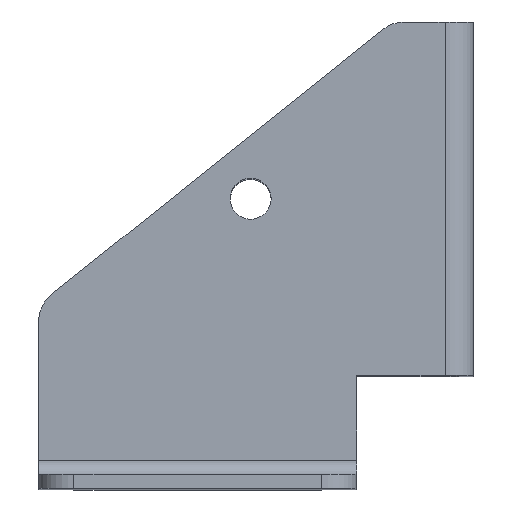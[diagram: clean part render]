
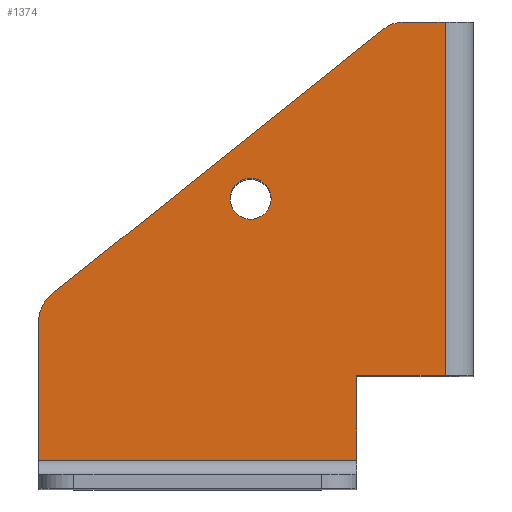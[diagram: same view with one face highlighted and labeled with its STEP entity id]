
A CAD part, top view. The second image highlights one B-rep face of the part: STEP entity #1374.
In plain terms, the highlighted planar face has unit normal (0, 0, 1).
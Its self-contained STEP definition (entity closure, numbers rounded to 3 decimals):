
#7 = VERTEX_POINT ( 'NONE', #2410 ) ;
#50 = VERTEX_POINT ( 'NONE', #2434 ) ;
#65 = ORIENTED_EDGE ( 'NONE', *, *, #2471, .T. ) ;
#83 = EDGE_CURVE ( 'NONE', #50, #589, #851, .T. ) ;
#137 = VERTEX_POINT ( 'NONE', #744 ) ;
#141 = DIRECTION ( 'NONE',  ( 0., -1., 0. ) ) ;
#142 = ORIENTED_EDGE ( 'NONE', *, *, #642, .T. ) ;
#148 = DIRECTION ( 'NONE',  ( 1., 0., 0. ) ) ;
#225 = CARTESIAN_POINT ( 'NONE',  ( -28.6, 25., 51. ) ) ;
#239 = VECTOR ( 'NONE', #1836, 1000. ) ;
#240 = LINE ( 'NONE', #1531, #402 ) ;
#250 = DIRECTION ( 'NONE',  ( -1., 0., 0. ) ) ;
#253 = DIRECTION ( 'NONE',  ( 0., 0., 1. ) ) ;
#279 = AXIS2_PLACEMENT_3D ( 'NONE', #2238, #344, #547 ) ;
#292 = CARTESIAN_POINT ( 'NONE',  ( -61.5, -12., 51. ) ) ;
#342 = CARTESIAN_POINT ( 'NONE',  ( -4., 50., 51. ) ) ;
#344 = DIRECTION ( 'NONE',  ( 0., 0., -1. ) ) ;
#394 = VERTEX_POINT ( 'NONE', #460 ) ;
#402 = VECTOR ( 'NONE', #752, 1000. ) ;
#423 = EDGE_LOOP ( 'NONE', ( #1041, #142, #1759, #2079, #823, #912, #1460, #1135, #888 ) ) ;
#460 = CARTESIAN_POINT ( 'NONE',  ( -16.5, -12., 51. ) ) ;
#500 = CARTESIAN_POINT ( 'NONE',  ( 0., 0., 51. ) ) ;
#519 = CARTESIAN_POINT ( 'NONE',  ( -31.5, 25., 51. ) ) ;
#547 = DIRECTION ( 'NONE',  ( 1., 0., 0. ) ) ;
#589 = VERTEX_POINT ( 'NONE', #1823 ) ;
#592 = CARTESIAN_POINT ( 'NONE',  ( -16.5, -12., 51. ) ) ;
#593 = EDGE_CURVE ( 'NONE', #1405, #2051, #2034, .T. ) ;
#601 = CARTESIAN_POINT ( 'NONE',  ( 0., 50., 51. ) ) ;
#609 = DIRECTION ( 'NONE',  ( 0., -1., 0. ) ) ;
#627 = DIRECTION ( 'NONE',  ( 1., 0., 0. ) ) ;
#642 = EDGE_CURVE ( 'NONE', #2086, #137, #1781, .T. ) ;
#658 = EDGE_CURVE ( 'Kante1', #7, #1005, #1895, .T. ) ;
#661 = EDGE_LOOP ( 'NONE', ( #65, #2361 ) ) ;
#694 = CARTESIAN_POINT ( 'NONE',  ( -4.488, 55.61, 51. ) ) ;
#733 = EDGE_CURVE ( 'Kante5', #394, #1162, #1537, .T. ) ;
#734 = DIRECTION ( 'NONE',  ( 0., 0., 1. ) ) ;
#744 = CARTESIAN_POINT ( 'NONE',  ( -12.87, 48.904, 51. ) ) ;
#752 = DIRECTION ( 'NONE',  ( -1., 0., 0. ) ) ;
#823 = ORIENTED_EDGE ( 'NONE', *, *, #1480, .T. ) ;
#851 = CIRCLE ( 'NONE', #1544, 5. ) ;
#888 = ORIENTED_EDGE ( 'NONE', *, *, #658, .F. ) ;
#912 = ORIENTED_EDGE ( 'NONE', *, *, #1218, .F. ) ;
#944 = EDGE_CURVE ( 'NONE', #7, #2086, #1595, .T. ) ;
#993 = PLANE ( 'NONE',  #2018 ) ;
#1005 = VERTEX_POINT ( 'NONE', #1442 ) ;
#1041 = ORIENTED_EDGE ( 'NONE', *, *, #944, .T. ) ;
#1050 = VECTOR ( 'NONE', #1054, 1000. ) ;
#1054 = DIRECTION ( 'NONE',  ( 0.781, 0.625, 0. ) ) ;
#1056 = VECTOR ( 'NONE', #250, 1000. ) ;
#1069 = DIRECTION ( 'NONE',  ( 0., 0., -1. ) ) ;
#1135 = ORIENTED_EDGE ( 'NONE', *, *, #2196, .F. ) ;
#1162 = VERTEX_POINT ( 'NONE', #1676 ) ;
#1206 = FACE_BOUND ( 'NONE', #661, .T. ) ;
#1214 = CARTESIAN_POINT ( 'NONE',  ( -61.5, 50., 51. ) ) ;
#1218 = EDGE_CURVE ( 'NONE', #394, #2334, #240, .T. ) ;
#1297 = LINE ( 'NONE', #694, #1050 ) ;
#1299 = CARTESIAN_POINT ( 'NONE',  ( -9.746, 45., 51. ) ) ;
#1332 = LINE ( 'NONE', #1214, #1706 ) ;
#1374 = ADVANCED_FACE ( 'NONE', ( #1206, #1535 ), #993, .T. ) ;
#1405 = VERTEX_POINT ( 'NONE', #225 ) ;
#1442 = CARTESIAN_POINT ( 'NONE',  ( -4., 0., 51. ) ) ;
#1460 = ORIENTED_EDGE ( 'NONE', *, *, #733, .T. ) ;
#1480 = EDGE_CURVE ( 'Kante16', #589, #2334, #1332, .T. ) ;
#1498 = AXIS2_PLACEMENT_3D ( 'NONE', #519, #1069, #2023 ) ;
#1531 = CARTESIAN_POINT ( 'NONE',  ( -16.5, -12., 51. ) ) ;
#1535 = FACE_OUTER_BOUND ( 'NONE', #423, .T. ) ;
#1537 = LINE ( 'NONE', #592, #1978 ) ;
#1544 = AXIS2_PLACEMENT_3D ( 'NONE', #1687, #734, #2293 ) ;
#1569 = CARTESIAN_POINT ( 'NONE',  ( -34.4, 25., 51. ) ) ;
#1595 = LINE ( 'NONE', #2305, #1056 ) ;
#1676 = CARTESIAN_POINT ( 'NONE',  ( -16.5, 0., 51. ) ) ;
#1687 = CARTESIAN_POINT ( 'NONE',  ( -56.5, 7.597, 51. ) ) ;
#1706 = VECTOR ( 'NONE', #609, 1000. ) ;
#1743 = DIRECTION ( 'NONE',  ( 0., 1., 0. ) ) ;
#1759 = ORIENTED_EDGE ( 'NONE', *, *, #2352, .F. ) ;
#1781 = CIRCLE ( 'NONE', #2030, 5. ) ;
#1795 = CARTESIAN_POINT ( 'NONE',  ( -9.746, 50., 51. ) ) ;
#1823 = CARTESIAN_POINT ( 'NONE',  ( -61.5, 7.597, 51. ) ) ;
#1836 = DIRECTION ( 'NONE',  ( -1., 0., 0. ) ) ;
#1895 = LINE ( 'NONE', #342, #2210 ) ;
#1971 = LINE ( 'NONE', #500, #239 ) ;
#1978 = VECTOR ( 'NONE', #1743, 1000. ) ;
#1994 = CIRCLE ( 'NONE', #279, 2.9 ) ;
#2018 = AXIS2_PLACEMENT_3D ( 'NONE', #601, #253, #627 ) ;
#2023 = DIRECTION ( 'NONE',  ( 1., 0., 0. ) ) ;
#2030 = AXIS2_PLACEMENT_3D ( 'NONE', #1299, #2413, #148 ) ;
#2034 = CIRCLE ( 'NONE', #1498, 2.9 ) ;
#2051 = VERTEX_POINT ( 'NONE', #1569 ) ;
#2079 = ORIENTED_EDGE ( 'NONE', *, *, #83, .T. ) ;
#2086 = VERTEX_POINT ( 'NONE', #1795 ) ;
#2196 = EDGE_CURVE ( 'NONE', #1005, #1162, #1971, .T. ) ;
#2210 = VECTOR ( 'NONE', #141, 1000. ) ;
#2238 = CARTESIAN_POINT ( 'NONE',  ( -31.5, 25., 51. ) ) ;
#2293 = DIRECTION ( 'NONE',  ( 1., 0., 0. ) ) ;
#2305 = CARTESIAN_POINT ( 'NONE',  ( 0., 50., 51. ) ) ;
#2334 = VERTEX_POINT ( 'NONE', #292 ) ;
#2352 = EDGE_CURVE ( 'NONE', #50, #137, #1297, .T. ) ;
#2361 = ORIENTED_EDGE ( 'NONE', *, *, #593, .T. ) ;
#2410 = CARTESIAN_POINT ( 'NONE',  ( -4., 50., 51. ) ) ;
#2413 = DIRECTION ( 'NONE',  ( 0., 0., 1. ) ) ;
#2434 = CARTESIAN_POINT ( 'NONE',  ( -59.623, 11.501, 51. ) ) ;
#2471 = EDGE_CURVE ( 'NONE', #2051, #1405, #1994, .T. ) ;
